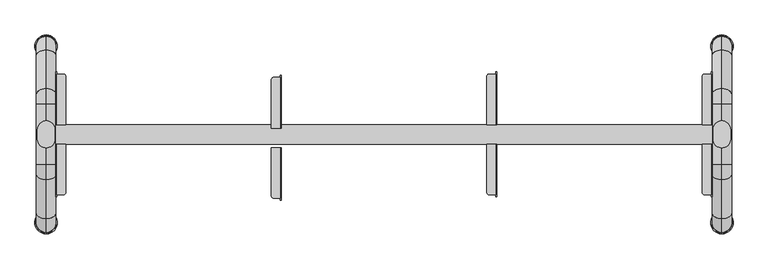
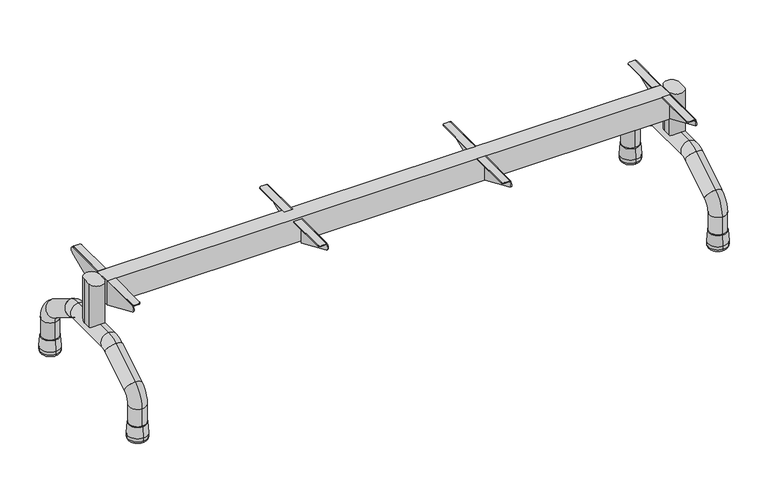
"""IFC4 building model written with IfcOpenShell, lengths in millimetres: furniture geometry, Banco para refeitório : Banco para refeitório 150x30cm cód 40470.2."""

from ifc_helpers import new_model, si_unit, point, frame, frame_2d, origin, place, context, project, spatial, polyline, circle_curve, ellipse_curve, trimmed, segment, composite_curve, outline, extrude, source, transform, mapped, element, save
from ifc_brep_helpers import plane_surface, cylinder_surface, revolved_surface, advanced_brep


def furniture_1859f8d8(model_context):
    return source(origin(), model_context, "Body", "SolidModel", [
        extrude(outline(composite_curve([segment(trimmed(circle_curve(frame_2d((-690.0, -9.5)), 18.0), [point((-672.0, -9.5))], [point((-708.0, -9.5))], False, "CARTESIAN"), True, "CONTINUOUS"), segment(polyline([(-708.0, -9.5), (-708.0, 9.5)]), True, "CONTINUOUS"), segment(trimmed(circle_curve(frame_2d((-690.0, 9.5)), 18.0), [point((-708.0, 9.5))], [point((-672.0, 9.5))], False, "CARTESIAN"), True, "CONTINUOUS"), segment(polyline([(-672.0, 9.5), (-672.0, -9.5)]), True, "CONTINUOUS")], self_intersect=False)), frame((0.0, 0.0, 175.0), z_axis=(0.0, 0.0, 1.0), x_axis=(1.0, 0.0, 0.0)), (0.0, 0.0, 1.0), 117.0),
        advanced_brep(
        [(-690.0, -160.0, 43.1183008), (-690.0, -200.0, 43.1183008), (-690.0, -160.0, 86.179057), (-690.0, -200.0, 86.179057), (-690.0, -171.6393713, 137.1589568), (-690.0, -150.5464571, 103.1723569), (-690.0, -71.882227, 151.9932999), (-690.0, -92.9751412, 185.9798998), (-690.0, -61.3357699, 195.0), (-690.0, -61.3357699, 155.0), (-690.0, 61.3357699, 155.0), (-690.0, 61.3357699, 195.0), (-690.0, 160.0, 43.1183008), (-690.0, 200.0, 43.1183008), (-690.0, 92.9751412, 185.9798998), (-690.0, 71.882227, 151.9932999), (-690.0, 150.5464571, 103.1723569), (-690.0, 171.6393713, 137.1589568), (-690.0, 200.0, 86.179057), (-690.0, 160.0, 86.179057)],
        [
            (0, 1, circle_curve(frame((-690.0, -180.0, 43.1183008), z_axis=(0.0, 0.0, -1.0), x_axis=(0.0, -1.0, 0.0)), 20.0)),
            (1, 0, circle_curve(frame((-690.0, -180.0, 43.1183008), z_axis=(0.0, 0.0, -1.0), x_axis=(0.0, -1.0, 0.0)), 20.0)),
            (0, 2),
            (2, 3, circle_curve(frame((-690.0, -180.0, 86.179057), z_axis=(0.0, 0.0, -1.0), x_axis=(0.0, -1.0, 0.0)), 20.0)),
            (3, 1),
            (3, 2, circle_curve(frame((-690.0, -180.0, 86.179057), z_axis=(0.0, 0.0, -1.0), x_axis=(0.0, -1.0, 0.0)), 20.0)),
            (4, 5, circle_curve(frame((-690.0, -161.0929142, 120.1656569), z_axis=(0.0, 0.8496649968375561, 0.5273228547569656), x_axis=(0.0, -0.5273228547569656, 0.8496649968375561)), 20.0)),
            (5, 6),
            (6, 7, circle_curve(frame((-690.0, -82.4286841, 168.9865999), z_axis=(0.0, -0.8496649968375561, -0.5273228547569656), x_axis=(0.0, -0.5273228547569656, 0.8496649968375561)), 20.0)),
            (7, 4),
            (5, 4, circle_curve(frame((-690.0, -161.0929142, 120.1656569), z_axis=(0.0, 0.8496649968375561, 0.5273228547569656), x_axis=(0.0, -0.5273228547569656, 0.8496649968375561)), 20.0)),
            (7, 6, circle_curve(frame((-690.0, -82.4286841, 168.9865999), z_axis=(0.0, -0.8496649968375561, -0.5273228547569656), x_axis=(0.0, -0.5273228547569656, 0.8496649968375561)), 20.0)),
            (8, 9, circle_curve(frame((-690.0, -61.3357699, 175.0), z_axis=(0.0, 1.0, 0.0), x_axis=(0.0, 0.0, 1.0)), 20.0)),
            (9, 10),
            (10, 11, circle_curve(frame((-690.0, 61.3357699, 175.0), z_axis=(0.0, -1.0, 0.0), x_axis=(0.0, 0.0, 1.0)), 20.0)),
            (11, 8),
            (9, 8, circle_curve(frame((-690.0, -61.3357699, 175.0), z_axis=(0.0, 1.0, 0.0), x_axis=(0.0, 0.0, 1.0)), 20.0)),
            (11, 10, circle_curve(frame((-690.0, 61.3357699, 175.0), z_axis=(0.0, -1.0, 0.0), x_axis=(0.0, 0.0, 1.0)), 20.0)),
            (12, 13, circle_curve(frame((-690.0, 180.0, 43.1183008), z_axis=(0.0, 0.0, -1.0), x_axis=(0.0, 1.0, 0.0)), 20.0)),
            (13, 12, circle_curve(frame((-690.0, 180.0, 43.1183008), z_axis=(0.0, 0.0, -1.0), x_axis=(0.0, 1.0, 0.0)), 20.0)),
            (4, 3, circle_curve(frame((-690.0, -140.0, 86.179057), z_axis=(1.0, 0.0, 0.0), x_axis=(0.0, -1.0, 0.0)), 60.0)),
            (2, 5, circle_curve(frame((-690.0, -140.0, 86.179057), z_axis=(-1.0, 0.0, 0.0), x_axis=(0.0, -1.0, 0.0)), 20.0)),
            (8, 7, circle_curve(frame((-690.0, -61.3357699, 135.0), z_axis=(1.0, 0.0, 0.0), x_axis=(0.0, -0.5273228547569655, 0.8496649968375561)), 60.0)),
            (6, 9, circle_curve(frame((-690.0, -61.3357699, 135.0), z_axis=(-1.0, 0.0, 0.0), x_axis=(0.0, -0.5273228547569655, 0.8496649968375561)), 20.0)),
            (14, 11, circle_curve(frame((-690.0, 61.3357699, 135.0), z_axis=(1.0, 0.0, 0.0), x_axis=(0.0, 0.0, 1.0)), 60.0)),
            (10, 15, circle_curve(frame((-690.0, 61.3357699, 135.0), z_axis=(-1.0, 0.0, 0.0), x_axis=(0.0, 0.0, 1.0)), 20.0)),
            (15, 14, circle_curve(frame((-690.0, 82.4286841, 168.9865999), z_axis=(0.0, -0.8496649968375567, 0.5273228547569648), x_axis=(0.0, 0.5273228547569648, 0.8496649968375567)), 20.0)),
            (14, 15, circle_curve(frame((-690.0, 82.4286841, 168.9865999), z_axis=(0.0, -0.8496649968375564, 0.5273228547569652), x_axis=(0.0, 0.5273228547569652, 0.8496649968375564)), 20.0)),
            (15, 16),
            (16, 17, circle_curve(frame((-690.0, 161.0929142, 120.1656569), z_axis=(0.0, -0.849664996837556, 0.5273228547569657), x_axis=(0.0, 0.5273228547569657, 0.849664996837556)), 20.0)),
            (17, 14),
            (17, 16, circle_curve(frame((-690.0, 161.0929142, 120.1656569), z_axis=(0.0, -0.849664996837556, 0.5273228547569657), x_axis=(0.0, 0.5273228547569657, 0.849664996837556)), 20.0)),
            (18, 17, circle_curve(frame((-690.0, 140.0, 86.179057), z_axis=(1.0, 0.0, 0.0), x_axis=(0.0, 0.5273228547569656, 0.849664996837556)), 60.0)),
            (16, 19, circle_curve(frame((-690.0, 140.0, 86.179057), z_axis=(-1.0, 0.0, 0.0), x_axis=(0.0, 0.5273228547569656, 0.849664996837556)), 20.0)),
            (19, 18, circle_curve(frame((-690.0, 180.0, 86.179057), z_axis=(0.0, 0.0, 1.0), x_axis=(0.0, 1.0, 0.0)), 20.0)),
            (18, 19, circle_curve(frame((-690.0, 180.0, 86.179057), z_axis=(0.0, 0.0, 1.0), x_axis=(0.0, 1.0, 0.0)), 20.0)),
            (19, 12),
            (13, 18),
        ],
        [
            plane_surface(frame((-1380.0, -180.0, 43.1183008), z_axis=(0.0, 0.0, -1.0), x_axis=(1.0, 0.0, 0.0))),
            cylinder_surface(frame((-690.0, -180.0, 43.1183008), z_axis=(0.0, 0.0, -1.0), x_axis=(0.0, -1.0, 0.0)), 20.0),
            cylinder_surface(frame((-690.0, -161.0929142, 120.1656569), z_axis=(0.0, -0.8496649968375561, -0.5273228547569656), x_axis=(0.0, -0.5273228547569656, 0.8496649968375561)), 20.0),
            cylinder_surface(frame((-690.0, -61.3357699, 175.0), z_axis=(0.0, -1.0, 0.0), x_axis=(0.0, 0.0, 1.0)), 20.0),
            plane_surface(frame((-1380.0, 180.0, 43.1183008), z_axis=(0.0, 0.0, -1.0), x_axis=(1.0, 0.0, 0.0))),
            revolved_surface(trimmed(ellipse_curve(frame((-690.0, -180.0, 86.179057), z_axis=(0.0, 0.0, -1.0), x_axis=(0.0, -1.0, 0.0)), 20.0, 20.0), [point((-690.0, -160.0, 86.179057))], [point((-690.0, -200.0, 86.179057))], True, "CARTESIAN"), (-1380.0, -140.0, 86.179057), (-1.0, 0.0, 0.0)),
            revolved_surface(trimmed(ellipse_curve(frame((-690.0, -180.0, 86.179057), z_axis=(0.0, 0.0, -1.0), x_axis=(0.0, -1.0, 0.0)), 20.0, 20.0), [point((-690.0, -200.0, 86.179057))], [point((-690.0, -160.0, 86.179057))], True, "CARTESIAN"), (-1380.0, -140.0, 86.179057), (-1.0, 0.0, 0.0)),
            revolved_surface(trimmed(ellipse_curve(frame((-690.0, -82.4286841, 168.9865999), z_axis=(0.0, -0.8496649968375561, -0.5273228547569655), x_axis=(0.0, -0.5273228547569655, 0.8496649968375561)), 20.0, 20.0), [point((-690.0, -71.882227, 151.9932999))], [point((-690.0, -92.9751412, 185.9798998))], True, "CARTESIAN"), (-1380.0, -61.3357699, 135.0), (-1.0, 0.0, 0.0)),
            revolved_surface(trimmed(ellipse_curve(frame((-690.0, -82.4286841, 168.9865999), z_axis=(0.0, -0.8496649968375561, -0.5273228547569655), x_axis=(0.0, -0.5273228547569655, 0.8496649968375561)), 20.0, 20.0), [point((-690.0, -92.9751412, 185.9798998))], [point((-690.0, -71.882227, 151.9932999))], True, "CARTESIAN"), (-1380.0, -61.3357699, 135.0), (-1.0, 0.0, 0.0)),
            revolved_surface(trimmed(ellipse_curve(frame((-690.0, 61.3357699, 175.0), z_axis=(0.0, -1.0, 0.0), x_axis=(0.0, 0.0, 1.0)), 20.0, 20.0), [point((-690.0, 61.3357699, 155.0))], [point((-690.0, 61.3357699, 195.0))], True, "CARTESIAN"), (-1380.0, 61.3357699, 135.0), (-1.0, 0.0, 0.0)),
            revolved_surface(trimmed(ellipse_curve(frame((-690.0, 61.3357699, 175.0), z_axis=(0.0, -1.0, 0.0), x_axis=(0.0, 0.0, 1.0)), 20.0, 20.0), [point((-690.0, 61.3357699, 195.0))], [point((-690.0, 61.3357699, 155.0))], True, "CARTESIAN"), (-1380.0, 61.3357699, 135.0), (-1.0, 0.0, 0.0)),
            cylinder_surface(frame((-690.0, 82.4286841, 168.9865999), z_axis=(0.0, -0.849664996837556, 0.5273228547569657), x_axis=(0.0, 0.5273228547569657, 0.849664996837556)), 20.0),
            revolved_surface(trimmed(ellipse_curve(frame((-690.0, 161.0929142, 120.1656569), z_axis=(0.0, -0.8496649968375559, 0.5273228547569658), x_axis=(0.0, 0.5273228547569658, 0.8496649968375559)), 20.0, 20.0), [point((-690.0, 150.5464571, 103.1723569))], [point((-690.0, 171.6393713, 137.1589568))], True, "CARTESIAN"), (-1380.0, 140.0, 86.179057), (-1.0, 0.0, 0.0)),
            revolved_surface(trimmed(ellipse_curve(frame((-690.0, 161.0929142, 120.1656569), z_axis=(0.0, -0.8496649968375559, 0.5273228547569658), x_axis=(0.0, 0.5273228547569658, 0.8496649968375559)), 20.0, 20.0), [point((-690.0, 171.6393713, 137.1589568))], [point((-690.0, 150.5464571, 103.1723569))], True, "CARTESIAN"), (-1380.0, 140.0, 86.179057), (-1.0, 0.0, 0.0)),
            cylinder_surface(frame((-690.0, 180.0, 86.179057), z_axis=(0.0, 0.0, 1.0), x_axis=(0.0, 1.0, 0.0)), 20.0),
        ],
        [
            (0, [[1, 2]]),
            (1, [[-1, 3, 4, 5]]),
            (1, [[-2, -5, 6, -3]]),
            (2, [[7, 8, 9, 10]]),
            (2, [[11, -10, 12, -8]]),
            (3, [[13, 14, 15, 16]]),
            (3, [[17, -16, 18, -14]]),
            (4, [[19, 20]]),
            (5, [[21, -4, 22, -7]]),
            (6, [[-22, -6, -21, -11]]),
            (7, [[23, -9, 24, -13]]),
            (8, [[-24, -12, -23, -17]]),
            (9, [[25, -15, 26, 27]]),
            (10, [[-26, -18, -25, 28]]),
            (11, [[-27, 29, 30, 31]]),
            (11, [[-28, -31, 32, -29]]),
            (12, [[33, -30, 34, 35]]),
            (13, [[-34, -32, -33, 36]]),
            (14, [[-35, 37, -20, 38]]),
            (14, [[-36, -38, -19, -37]]),
        ],
    ),
        extrude(outline(composite_curve([segment(trimmed(circle_curve(frame_2d((690.0, -9.5)), 18.0), [point((708.0, -9.5))], [point((672.0, -9.5))], False, "CARTESIAN"), True, "CONTINUOUS"), segment(polyline([(672.0, -9.5), (672.0, 9.5)]), True, "CONTINUOUS"), segment(trimmed(circle_curve(frame_2d((690.0, 9.5)), 18.0), [point((672.0, 9.5))], [point((708.0, 9.5))], False, "CARTESIAN"), True, "CONTINUOUS"), segment(polyline([(708.0, 9.5), (708.0, -9.5)]), True, "CONTINUOUS")], self_intersect=False)), frame((0.0, 0.0, 175.0), z_axis=(0.0, 0.0, 1.0), x_axis=(1.0, 0.0, 0.0)), (0.0, 0.0, 1.0), 117.0),
        advanced_brep(
        [(690.0, -160.0, 43.1183008), (690.0, -200.0, 43.1183008), (690.0, -160.0, 86.179057), (690.0, -200.0, 86.179057), (690.0, -171.6393713, 137.1589568), (690.0, -150.5464571, 103.1723569), (690.0, -71.882227, 151.9932999), (690.0, -92.9751412, 185.9798998), (690.0, -61.3357699, 195.0), (690.0, -61.3357699, 155.0), (690.0, 61.3357699, 155.0), (690.0, 61.3357699, 195.0), (690.0, 160.0, 43.1183008), (690.0, 200.0, 43.1183008), (690.0, 92.9751412, 185.9798998), (690.0, 71.882227, 151.9932999), (690.0, 150.5464571, 103.1723569), (690.0, 171.6393713, 137.1589568), (690.0, 200.0, 86.179057), (690.0, 160.0, 86.179057)],
        [
            (0, 1, circle_curve(frame((690.0, -180.0, 43.1183008), z_axis=(0.0, 0.0, -1.0), x_axis=(0.0, -1.0, 0.0)), 20.0)),
            (1, 0, circle_curve(frame((690.0, -180.0, 43.1183008), z_axis=(0.0, 0.0, -1.0), x_axis=(0.0, -1.0, 0.0)), 20.0)),
            (0, 2),
            (2, 3, circle_curve(frame((690.0, -180.0, 86.179057), z_axis=(0.0, 0.0, -1.0), x_axis=(0.0, -1.0, 0.0)), 20.0)),
            (3, 1),
            (3, 2, circle_curve(frame((690.0, -180.0, 86.179057), z_axis=(0.0, 0.0, -1.0), x_axis=(0.0, -1.0, 0.0)), 20.0)),
            (4, 5, circle_curve(frame((690.0, -161.0929142, 120.1656569), z_axis=(0.0, 0.8496649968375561, 0.5273228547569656), x_axis=(0.0, -0.5273228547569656, 0.8496649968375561)), 20.0)),
            (5, 6),
            (6, 7, circle_curve(frame((690.0, -82.4286841, 168.9865999), z_axis=(0.0, -0.8496649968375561, -0.5273228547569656), x_axis=(0.0, -0.5273228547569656, 0.8496649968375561)), 20.0)),
            (7, 4),
            (5, 4, circle_curve(frame((690.0, -161.0929142, 120.1656569), z_axis=(0.0, 0.8496649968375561, 0.5273228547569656), x_axis=(0.0, -0.5273228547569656, 0.8496649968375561)), 20.0)),
            (7, 6, circle_curve(frame((690.0, -82.4286841, 168.9865999), z_axis=(0.0, -0.8496649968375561, -0.5273228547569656), x_axis=(0.0, -0.5273228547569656, 0.8496649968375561)), 20.0)),
            (8, 9, circle_curve(frame((690.0, -61.3357699, 175.0), z_axis=(0.0, 1.0, 0.0), x_axis=(0.0, 0.0, 1.0)), 20.0)),
            (9, 10),
            (10, 11, circle_curve(frame((690.0, 61.3357699, 175.0), z_axis=(0.0, -1.0, 0.0), x_axis=(0.0, 0.0, 1.0)), 20.0)),
            (11, 8),
            (9, 8, circle_curve(frame((690.0, -61.3357699, 175.0), z_axis=(0.0, 1.0, 0.0), x_axis=(0.0, 0.0, 1.0)), 20.0)),
            (11, 10, circle_curve(frame((690.0, 61.3357699, 175.0), z_axis=(0.0, -1.0, 0.0), x_axis=(0.0, 0.0, 1.0)), 20.0)),
            (12, 13, circle_curve(frame((690.0, 180.0, 43.1183008), z_axis=(0.0, 0.0, -1.0), x_axis=(0.0, 1.0, 0.0)), 20.0)),
            (13, 12, circle_curve(frame((690.0, 180.0, 43.1183008), z_axis=(0.0, 0.0, -1.0), x_axis=(0.0, 1.0, 0.0)), 20.0)),
            (4, 3, circle_curve(frame((690.0, -140.0, 86.179057), z_axis=(1.0, 0.0, 0.0), x_axis=(0.0, -1.0, 0.0)), 60.0)),
            (2, 5, circle_curve(frame((690.0, -140.0, 86.179057), z_axis=(-1.0, 0.0, 0.0), x_axis=(0.0, -1.0, 0.0)), 20.0)),
            (8, 7, circle_curve(frame((690.0, -61.3357699, 135.0), z_axis=(1.0, 0.0, 0.0), x_axis=(0.0, -0.5273228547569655, 0.8496649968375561)), 60.0)),
            (6, 9, circle_curve(frame((690.0, -61.3357699, 135.0), z_axis=(-1.0, 0.0, 0.0), x_axis=(0.0, -0.5273228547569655, 0.8496649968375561)), 20.0)),
            (14, 11, circle_curve(frame((690.0, 61.3357699, 135.0), z_axis=(1.0, 0.0, 0.0), x_axis=(0.0, 0.0, 1.0)), 60.0)),
            (10, 15, circle_curve(frame((690.0, 61.3357699, 135.0), z_axis=(-1.0, 0.0, 0.0), x_axis=(0.0, 0.0, 1.0)), 20.0)),
            (15, 14, circle_curve(frame((690.0, 82.4286841, 168.9865999), z_axis=(0.0, -0.8496649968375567, 0.5273228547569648), x_axis=(0.0, 0.5273228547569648, 0.8496649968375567)), 20.0)),
            (14, 15, circle_curve(frame((690.0, 82.4286841, 168.9865999), z_axis=(0.0, -0.8496649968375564, 0.5273228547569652), x_axis=(0.0, 0.5273228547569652, 0.8496649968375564)), 20.0)),
            (15, 16),
            (16, 17, circle_curve(frame((690.0, 161.0929142, 120.1656569), z_axis=(0.0, -0.849664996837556, 0.5273228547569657), x_axis=(0.0, 0.5273228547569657, 0.849664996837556)), 20.0)),
            (17, 14),
            (17, 16, circle_curve(frame((690.0, 161.0929142, 120.1656569), z_axis=(0.0, -0.849664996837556, 0.5273228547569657), x_axis=(0.0, 0.5273228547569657, 0.849664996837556)), 20.0)),
            (18, 17, circle_curve(frame((690.0, 140.0, 86.179057), z_axis=(1.0, 0.0, 0.0), x_axis=(0.0, 0.5273228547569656, 0.849664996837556)), 60.0)),
            (16, 19, circle_curve(frame((690.0, 140.0, 86.179057), z_axis=(-1.0, 0.0, 0.0), x_axis=(0.0, 0.5273228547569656, 0.849664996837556)), 20.0)),
            (19, 18, circle_curve(frame((690.0, 180.0, 86.179057), z_axis=(0.0, 0.0, 1.0), x_axis=(0.0, 1.0, 0.0)), 20.0)),
            (18, 19, circle_curve(frame((690.0, 180.0, 86.179057), z_axis=(0.0, 0.0, 1.0), x_axis=(0.0, 1.0, 0.0)), 20.0)),
            (19, 12),
            (13, 18),
        ],
        [
            plane_surface(frame((0.0, -180.0, 43.1183008), z_axis=(0.0, 0.0, -1.0), x_axis=(1.0, 0.0, 0.0))),
            cylinder_surface(frame((690.0, -180.0, 43.1183008), z_axis=(0.0, 0.0, -1.0), x_axis=(0.0, -1.0, 0.0)), 20.0),
            cylinder_surface(frame((690.0, -161.0929142, 120.1656569), z_axis=(0.0, -0.8496649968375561, -0.5273228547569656), x_axis=(0.0, -0.5273228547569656, 0.8496649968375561)), 20.0),
            cylinder_surface(frame((690.0, -61.3357699, 175.0), z_axis=(0.0, -1.0, 0.0), x_axis=(0.0, 0.0, 1.0)), 20.0),
            plane_surface(frame((0.0, 180.0, 43.1183008), z_axis=(0.0, 0.0, -1.0), x_axis=(1.0, 0.0, 0.0))),
            revolved_surface(trimmed(ellipse_curve(frame((690.0, -180.0, 86.179057), z_axis=(0.0, 0.0, -1.0), x_axis=(0.0, -1.0, 0.0)), 20.0, 20.0), [point((690.0, -160.0, 86.179057))], [point((690.0, -200.0, 86.179057))], True, "CARTESIAN"), (0.0, -140.0, 86.179057), (-1.0, 0.0, 0.0)),
            revolved_surface(trimmed(ellipse_curve(frame((690.0, -180.0, 86.179057), z_axis=(0.0, 0.0, -1.0), x_axis=(0.0, -1.0, 0.0)), 20.0, 20.0), [point((690.0, -200.0, 86.179057))], [point((690.0, -160.0, 86.179057))], True, "CARTESIAN"), (0.0, -140.0, 86.179057), (-1.0, 0.0, 0.0)),
            revolved_surface(trimmed(ellipse_curve(frame((690.0, -82.4286841, 168.9865999), z_axis=(0.0, -0.8496649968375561, -0.5273228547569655), x_axis=(0.0, -0.5273228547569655, 0.8496649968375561)), 20.0, 20.0), [point((690.0, -71.882227, 151.9932999))], [point((690.0, -92.9751412, 185.9798998))], True, "CARTESIAN"), (0.0, -61.3357699, 135.0), (-1.0, 0.0, 0.0)),
            revolved_surface(trimmed(ellipse_curve(frame((690.0, -82.4286841, 168.9865999), z_axis=(0.0, -0.8496649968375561, -0.5273228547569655), x_axis=(0.0, -0.5273228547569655, 0.8496649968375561)), 20.0, 20.0), [point((690.0, -92.9751412, 185.9798998))], [point((690.0, -71.882227, 151.9932999))], True, "CARTESIAN"), (0.0, -61.3357699, 135.0), (-1.0, 0.0, 0.0)),
            revolved_surface(trimmed(ellipse_curve(frame((690.0, 61.3357699, 175.0), z_axis=(0.0, -1.0, 0.0), x_axis=(0.0, 0.0, 1.0)), 20.0, 20.0), [point((690.0, 61.3357699, 155.0))], [point((690.0, 61.3357699, 195.0))], True, "CARTESIAN"), (0.0, 61.3357699, 135.0), (-1.0, 0.0, 0.0)),
            revolved_surface(trimmed(ellipse_curve(frame((690.0, 61.3357699, 175.0), z_axis=(0.0, -1.0, 0.0), x_axis=(0.0, 0.0, 1.0)), 20.0, 20.0), [point((690.0, 61.3357699, 195.0))], [point((690.0, 61.3357699, 155.0))], True, "CARTESIAN"), (0.0, 61.3357699, 135.0), (-1.0, 0.0, 0.0)),
            cylinder_surface(frame((690.0, 82.4286841, 168.9865999), z_axis=(0.0, -0.849664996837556, 0.5273228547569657), x_axis=(0.0, 0.5273228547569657, 0.849664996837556)), 20.0),
            revolved_surface(trimmed(ellipse_curve(frame((690.0, 161.0929142, 120.1656569), z_axis=(0.0, -0.8496649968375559, 0.5273228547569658), x_axis=(0.0, 0.5273228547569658, 0.8496649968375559)), 20.0, 20.0), [point((690.0, 150.5464571, 103.1723569))], [point((690.0, 171.6393713, 137.1589568))], True, "CARTESIAN"), (0.0, 140.0, 86.179057), (-1.0, 0.0, 0.0)),
            revolved_surface(trimmed(ellipse_curve(frame((690.0, 161.0929142, 120.1656569), z_axis=(0.0, -0.8496649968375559, 0.5273228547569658), x_axis=(0.0, 0.5273228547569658, 0.8496649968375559)), 20.0, 20.0), [point((690.0, 171.6393713, 137.1589568))], [point((690.0, 150.5464571, 103.1723569))], True, "CARTESIAN"), (0.0, 140.0, 86.179057), (-1.0, 0.0, 0.0)),
            cylinder_surface(frame((690.0, 180.0, 86.179057), z_axis=(0.0, 0.0, 1.0), x_axis=(0.0, 1.0, 0.0)), 20.0),
        ],
        [
            (0, [[1, 2]]),
            (1, [[-1, 3, 4, 5]]),
            (1, [[-2, -5, 6, -3]]),
            (2, [[7, 8, 9, 10]]),
            (2, [[11, -10, 12, -8]]),
            (3, [[13, 14, 15, 16]]),
            (3, [[17, -16, 18, -14]]),
            (4, [[19, 20]]),
            (5, [[21, -4, 22, -7]]),
            (6, [[-22, -6, -21, -11]]),
            (7, [[23, -9, 24, -13]]),
            (8, [[-24, -12, -23, -17]]),
            (9, [[25, -15, 26, 27]]),
            (10, [[-26, -18, -25, 28]]),
            (11, [[-27, 29, 30, 31]]),
            (11, [[-28, -31, 32, -29]]),
            (12, [[33, -30, 34, 35]]),
            (13, [[-34, -32, -33, 36]]),
            (14, [[-35, 37, -20, 38]]),
            (14, [[-36, -38, -19, -37]]),
        ],
    ),
        advanced_brep(
        [(-690.0, 200.5839249, 42.9792915), (-690.0, 201.212521, 42.3931162), (-690.0, 158.787479, 42.3931162), (-690.0, 159.4160751, 42.9792915), (-690.0, 203.125, 15.0433923), (-690.0, 156.875, 15.0433923), (-690.0, 203.125, 7.2213749), (-690.0, 156.875, 7.2213749), (-690.0, 196.0093092, 0.1056841), (-690.0, 163.9906908, 0.1056841), (-690.0, 180.0, 0.1056841), (-690.0, 180.0, 42.9792915)],
        [
            (0, 1, circle_curve(frame((-690.0, 200.5839249, 42.3491605), z_axis=(-1.0, 0.0, 0.0), x_axis=(0.0, -1.0, 0.0)), 0.630131)),
            (1, 2, circle_curve(frame((-690.0, 180.0, 42.3931162), z_axis=(0.0, 0.0, 1.0), x_axis=(0.0, -1.0, 0.0)), 21.212521)),
            (2, 3, circle_curve(frame((-690.0, 159.4160751, 42.3491605), z_axis=(-1.0, 0.0, 0.0), x_axis=(0.0, 1.0, 0.0)), 0.630131)),
            (3, 0, circle_curve(frame((-690.0, 180.0, 42.9792915), z_axis=(0.0, 0.0, -1.0), x_axis=(0.0, -1.0, 0.0)), 20.5839249)),
            (2, 1, circle_curve(frame((-690.0, 180.0, 42.3931162), z_axis=(0.0, 0.0, 1.0), x_axis=(0.0, -1.0, 0.0)), 21.212521)),
            (0, 3, circle_curve(frame((-690.0, 180.0, 42.9792915), z_axis=(0.0, 0.0, -1.0), x_axis=(0.0, -1.0, 0.0)), 20.5839249)),
            (1, 4),
            (4, 5, circle_curve(frame((-690.0, 180.0, 15.0433923), z_axis=(0.0, 0.0, 1.0), x_axis=(0.0, -1.0, 0.0)), 23.125)),
            (5, 2),
            (5, 4, circle_curve(frame((-690.0, 180.0, 15.0433923), z_axis=(0.0, 0.0, 1.0), x_axis=(0.0, -1.0, 0.0)), 23.125)),
            (4, 6),
            (6, 7, circle_curve(frame((-690.0, 180.0, 7.2213749), z_axis=(0.0, 0.0, 1.0), x_axis=(0.0, -1.0, 0.0)), 23.125)),
            (7, 5),
            (7, 6, circle_curve(frame((-690.0, 180.0, 7.2213749), z_axis=(0.0, 0.0, 1.0), x_axis=(0.0, -1.0, 0.0)), 23.125)),
            (6, 8, circle_curve(frame((-690.0, 196.0093092, 7.2213749), z_axis=(-1.0, 0.0, 0.0), x_axis=(0.0, -1.0, 0.0)), 7.1156908)),
            (8, 9, circle_curve(frame((-690.0, 180.0, 0.1056841), z_axis=(0.0, 0.0, 1.0), x_axis=(0.0, -1.0, 0.0)), 16.0093092)),
            (9, 7, circle_curve(frame((-690.0, 163.9906908, 7.2213749), z_axis=(-1.0, 0.0, 0.0), x_axis=(0.0, 1.0, 0.0)), 7.1156908)),
            (9, 8, circle_curve(frame((-690.0, 180.0, 0.1056841), z_axis=(0.0, 0.0, 1.0), x_axis=(0.0, -1.0, 0.0)), 16.0093092)),
            (8, 10),
            (10, 9),
            (11, 0),
            (3, 11),
        ],
        [
            revolved_surface(trimmed(ellipse_curve(frame((-690.0, 159.4160751, 42.3491605), z_axis=(-1.0, 0.0, 0.0), x_axis=(0.0, 1.0, 0.0)), 0.630131, 0.630131), [point((-690.0, 158.787479, 42.3931162))], [point((-690.0, 159.4160751, 42.9792915))], True, "CARTESIAN"), (-690.0, 180.0, 0.1056841), (0.0, 0.0, 1.0)),
            revolved_surface(polyline([(-690.0, 156.875, 15.0433923), (-690.0, 158.787479, 42.3931162)]), (-690.0, 180.0, 0.1056841), (0.0, 0.0, 1.0)),
            cylinder_surface(frame((-690.0, 180.0, 0.1056841), z_axis=(0.0, 0.0, 1.0), x_axis=(0.0, -1.0, 0.0)), 23.125),
            revolved_surface(trimmed(ellipse_curve(frame((-690.0, 163.9906908, 7.2213749), z_axis=(-1.0, 0.0, 0.0), x_axis=(0.0, 1.0, 0.0)), 7.1156908, 7.1156908), [point((-690.0, 163.9906908, 0.1056841))], [point((-690.0, 156.875, 7.2213749))], True, "CARTESIAN"), (-690.0, 180.0, 0.1056841), (0.0, 0.0, 1.0)),
            plane_surface(frame((-690.0, 180.0, 0.1056841), z_axis=(0.0, 0.0, -1.0), x_axis=(0.0, -1.0, 0.0))),
            plane_surface(frame((-690.0, 180.0, 42.9792915), z_axis=(0.0, 0.0, 1.0), x_axis=(0.0, -1.0, 0.0))),
        ],
        [
            (0, [[1, 2, 3, 4]]),
            (0, [[-3, 5, -1, 6]]),
            (1, [[7, 8, 9, -2]]),
            (1, [[-9, 10, -7, -5]]),
            (2, [[11, 12, 13, -8]]),
            (2, [[-13, 14, -11, -10]]),
            (3, [[15, 16, 17, -12]]),
            (3, [[-17, 18, -15, -14]]),
            (4, [[19, 20, -16]]),
            (4, [[-20, -19, -18]]),
            (5, [[21, -4, 22]]),
            (5, [[-22, -6, -21]]),
        ],
    ),
        advanced_brep(
        [(-690.0, -159.4160751, 42.9792915), (-690.0, -158.787479, 42.3931162), (-690.0, -201.212521, 42.3931162), (-690.0, -200.5839249, 42.9792915), (-690.0, -156.875, 15.0433923), (-690.0, -203.125, 15.0433923), (-690.0, -156.875, 7.2213749), (-690.0, -203.125, 7.2213749), (-690.0, -163.9906908, 0.1056841), (-690.0, -196.0093092, 0.1056841), (-690.0, -180.0, 0.1056841), (-690.0, -180.0, 42.9792915)],
        [
            (0, 1, circle_curve(frame((-690.0, -159.4160751, 42.3491605), z_axis=(-1.0, 0.0, 0.0), x_axis=(0.0, -1.0, 0.0)), 0.630131)),
            (1, 2, circle_curve(frame((-690.0, -180.0, 42.3931162), z_axis=(0.0, 0.0, 1.0), x_axis=(0.0, -1.0, 0.0)), 21.212521)),
            (2, 3, circle_curve(frame((-690.0, -200.5839249, 42.3491605), z_axis=(-1.0, 0.0, 0.0), x_axis=(0.0, 1.0, 0.0)), 0.630131)),
            (3, 0, circle_curve(frame((-690.0, -180.0, 42.9792915), z_axis=(0.0, 0.0, -1.0), x_axis=(0.0, -1.0, 0.0)), 20.5839249)),
            (2, 1, circle_curve(frame((-690.0, -180.0, 42.3931162), z_axis=(0.0, 0.0, 1.0), x_axis=(0.0, -1.0, 0.0)), 21.212521)),
            (0, 3, circle_curve(frame((-690.0, -180.0, 42.9792915), z_axis=(0.0, 0.0, -1.0), x_axis=(0.0, -1.0, 0.0)), 20.5839249)),
            (1, 4),
            (4, 5, circle_curve(frame((-690.0, -180.0, 15.0433923), z_axis=(0.0, 0.0, 1.0), x_axis=(0.0, -1.0, 0.0)), 23.125)),
            (5, 2),
            (5, 4, circle_curve(frame((-690.0, -180.0, 15.0433923), z_axis=(0.0, 0.0, 1.0), x_axis=(0.0, -1.0, 0.0)), 23.125)),
            (4, 6),
            (6, 7, circle_curve(frame((-690.0, -180.0, 7.2213749), z_axis=(0.0, 0.0, 1.0), x_axis=(0.0, -1.0, 0.0)), 23.125)),
            (7, 5),
            (7, 6, circle_curve(frame((-690.0, -180.0, 7.2213749), z_axis=(0.0, 0.0, 1.0), x_axis=(0.0, -1.0, 0.0)), 23.125)),
            (6, 8, circle_curve(frame((-690.0, -163.9906908, 7.2213749), z_axis=(-1.0, 0.0, 0.0), x_axis=(0.0, -1.0, 0.0)), 7.1156908)),
            (8, 9, circle_curve(frame((-690.0, -180.0, 0.1056841), z_axis=(0.0, 0.0, 1.0), x_axis=(0.0, -1.0, 0.0)), 16.0093092)),
            (9, 7, circle_curve(frame((-690.0, -196.0093092, 7.2213749), z_axis=(-1.0, 0.0, 0.0), x_axis=(0.0, 1.0, 0.0)), 7.1156908)),
            (9, 8, circle_curve(frame((-690.0, -180.0, 0.1056841), z_axis=(0.0, 0.0, 1.0), x_axis=(0.0, -1.0, 0.0)), 16.0093092)),
            (8, 10),
            (10, 9),
            (11, 0),
            (3, 11),
        ],
        [
            revolved_surface(trimmed(ellipse_curve(frame((-690.0, -200.5839249, 42.3491605), z_axis=(-1.0, 0.0, 0.0), x_axis=(0.0, 1.0, 0.0)), 0.630131, 0.630131), [point((-690.0, -201.212521, 42.3931162))], [point((-690.0, -200.5839249, 42.9792915))], True, "CARTESIAN"), (-690.0, -180.0, 0.1056841), (0.0, 0.0, 1.0)),
            revolved_surface(polyline([(-690.0, -203.125, 15.0433923), (-690.0, -201.212521, 42.3931162)]), (-690.0, -180.0, 0.1056841), (0.0, 0.0, 1.0)),
            cylinder_surface(frame((-690.0, -180.0, 0.1056841), z_axis=(0.0, 0.0, 1.0), x_axis=(0.0, -1.0, 0.0)), 23.125),
            revolved_surface(trimmed(ellipse_curve(frame((-690.0, -196.0093092, 7.2213749), z_axis=(-1.0, 0.0, 0.0), x_axis=(0.0, 1.0, 0.0)), 7.1156908, 7.1156908), [point((-690.0, -196.0093092, 0.1056841))], [point((-690.0, -203.125, 7.2213749))], True, "CARTESIAN"), (-690.0, -180.0, 0.1056841), (0.0, 0.0, 1.0)),
            plane_surface(frame((-690.0, -180.0, 0.1056841), z_axis=(0.0, 0.0, -1.0), x_axis=(0.0, -1.0, 0.0))),
            plane_surface(frame((-690.0, -180.0, 42.9792915), z_axis=(0.0, 0.0, 1.0), x_axis=(0.0, -1.0, 0.0))),
        ],
        [
            (0, [[1, 2, 3, 4]]),
            (0, [[-3, 5, -1, 6]]),
            (1, [[7, 8, 9, -2]]),
            (1, [[-9, 10, -7, -5]]),
            (2, [[11, 12, 13, -8]]),
            (2, [[-13, 14, -11, -10]]),
            (3, [[15, 16, 17, -12]]),
            (3, [[-17, 18, -15, -14]]),
            (4, [[19, 20, -16]]),
            (4, [[-20, -19, -18]]),
            (5, [[21, -4, 22]]),
            (5, [[-22, -6, -21]]),
        ],
    ),
        advanced_brep(
        [(690.0, 200.5839249, 42.9792915), (690.0, 159.4160751, 42.9792915), (690.0, 158.787479, 42.3931162), (690.0, 201.212521, 42.3931162), (690.0, 156.875, 15.0433923), (690.0, 203.125, 15.0433923), (690.0, 156.875, 7.2213749), (690.0, 203.125, 7.2213749), (690.0, 163.9906908, 0.1056841), (690.0, 196.0093092, 0.1056841), (690.0, 180.0, 0.1056841), (690.0, 180.0, 42.9792915)],
        [
            (0, 1, circle_curve(frame((690.0, 180.0, 42.9792915), z_axis=(0.0, 0.0, -1.0), x_axis=(0.0, -1.0, 0.0)), 20.5839249)),
            (1, 2, circle_curve(frame((690.0, 159.4160751, 42.3491605), z_axis=(1.0, 0.0, 0.0), x_axis=(0.0, 1.0, 0.0)), 0.630131)),
            (2, 3, circle_curve(frame((690.0, 180.0, 42.3931162), z_axis=(0.0, 0.0, 1.0), x_axis=(0.0, -1.0, 0.0)), 21.212521)),
            (3, 0, circle_curve(frame((690.0, 200.5839249, 42.3491605), z_axis=(1.0, 0.0, 0.0), x_axis=(0.0, -1.0, 0.0)), 0.630131)),
            (1, 0, circle_curve(frame((690.0, 180.0, 42.9792915), z_axis=(0.0, 0.0, -1.0), x_axis=(0.0, -1.0, 0.0)), 20.5839249)),
            (3, 2, circle_curve(frame((690.0, 180.0, 42.3931162), z_axis=(0.0, 0.0, 1.0), x_axis=(0.0, -1.0, 0.0)), 21.212521)),
            (2, 4),
            (4, 5, circle_curve(frame((690.0, 180.0, 15.0433923), z_axis=(0.0, 0.0, 1.0), x_axis=(0.0, -1.0, 0.0)), 23.125)),
            (5, 3),
            (5, 4, circle_curve(frame((690.0, 180.0, 15.0433923), z_axis=(0.0, 0.0, 1.0), x_axis=(0.0, -1.0, 0.0)), 23.125)),
            (4, 6),
            (6, 7, circle_curve(frame((690.0, 180.0, 7.2213749), z_axis=(0.0, 0.0, 1.0), x_axis=(0.0, -1.0, 0.0)), 23.125)),
            (7, 5),
            (7, 6, circle_curve(frame((690.0, 180.0, 7.2213749), z_axis=(0.0, 0.0, 1.0), x_axis=(0.0, -1.0, 0.0)), 23.125)),
            (6, 8, circle_curve(frame((690.0, 163.9906908, 7.2213749), z_axis=(1.0, 0.0, 0.0), x_axis=(0.0, 1.0, 0.0)), 7.1156908)),
            (8, 9, circle_curve(frame((690.0, 180.0, 0.1056841), z_axis=(0.0, 0.0, 1.0), x_axis=(0.0, -1.0, 0.0)), 16.0093092)),
            (9, 7, circle_curve(frame((690.0, 196.0093092, 7.2213749), z_axis=(1.0, 0.0, 0.0), x_axis=(0.0, -1.0, 0.0)), 7.1156908)),
            (9, 8, circle_curve(frame((690.0, 180.0, 0.1056841), z_axis=(0.0, 0.0, 1.0), x_axis=(0.0, -1.0, 0.0)), 16.0093092)),
            (8, 10),
            (10, 9),
            (11, 1),
            (0, 11),
        ],
        [
            revolved_surface(trimmed(ellipse_curve(frame((690.0, 159.4160751, 42.3491605), z_axis=(-1.0, 0.0, 0.0), x_axis=(0.0, 1.0, 0.0)), 0.630131, 0.630131), [point((690.0, 158.787479, 42.3931162))], [point((690.0, 159.4160751, 42.9792915))], True, "CARTESIAN"), (690.0, 180.0, 0.1056841), (0.0, 0.0, 1.0)),
            revolved_surface(polyline([(690.0, 156.875, 15.0433923), (690.0, 158.787479, 42.3931162)]), (690.0, 180.0, 0.1056841), (0.0, 0.0, 1.0)),
            cylinder_surface(frame((690.0, 180.0, 0.1056841), z_axis=(0.0, 0.0, 1.0), x_axis=(0.0, -1.0, 0.0)), 23.125),
            revolved_surface(trimmed(ellipse_curve(frame((690.0, 163.9906908, 7.2213749), z_axis=(-1.0, 0.0, 0.0), x_axis=(0.0, 1.0, 0.0)), 7.1156908, 7.1156908), [point((690.0, 163.9906908, 0.1056841))], [point((690.0, 156.875, 7.2213749))], True, "CARTESIAN"), (690.0, 180.0, 0.1056841), (0.0, 0.0, 1.0)),
            plane_surface(frame((690.0, 180.0, 0.1056841), z_axis=(0.0, 0.0, -1.0), x_axis=(0.0, -1.0, 0.0))),
            plane_surface(frame((690.0, 180.0, 42.9792915), z_axis=(0.0, 0.0, 1.0), x_axis=(0.0, -1.0, 0.0))),
        ],
        [
            (0, [[1, 2, 3, 4]]),
            (0, [[5, -4, 6, -2]]),
            (1, [[-3, 7, 8, 9]]),
            (1, [[-6, -9, 10, -7]]),
            (2, [[-8, 11, 12, 13]]),
            (2, [[-10, -13, 14, -11]]),
            (3, [[-12, 15, 16, 17]]),
            (3, [[-14, -17, 18, -15]]),
            (4, [[-16, 19, 20]]),
            (4, [[-18, -20, -19]]),
            (5, [[21, -1, 22]]),
            (5, [[-22, -5, -21]]),
        ],
    ),
        advanced_brep(
        [(690.0, -159.4160751, 42.9792915), (690.0, -200.5839249, 42.9792915), (690.0, -201.212521, 42.3931162), (690.0, -158.787479, 42.3931162), (690.0, -203.125, 15.0433923), (690.0, -156.875, 15.0433923), (690.0, -203.125, 7.2213749), (690.0, -156.875, 7.2213749), (690.0, -196.0093092, 0.1056841), (690.0, -163.9906908, 0.1056841), (690.0, -180.0, 0.1056841), (690.0, -180.0, 42.9792915)],
        [
            (0, 1, circle_curve(frame((690.0, -180.0, 42.9792915), z_axis=(0.0, 0.0, -1.0), x_axis=(0.0, -1.0, 0.0)), 20.5839249)),
            (1, 2, circle_curve(frame((690.0, -200.5839249, 42.3491605), z_axis=(1.0, 0.0, 0.0), x_axis=(0.0, 1.0, 0.0)), 0.630131)),
            (2, 3, circle_curve(frame((690.0, -180.0, 42.3931162), z_axis=(0.0, 0.0, 1.0), x_axis=(0.0, -1.0, 0.0)), 21.212521)),
            (3, 0, circle_curve(frame((690.0, -159.4160751, 42.3491605), z_axis=(1.0, 0.0, 0.0), x_axis=(0.0, -1.0, 0.0)), 0.630131)),
            (1, 0, circle_curve(frame((690.0, -180.0, 42.9792915), z_axis=(0.0, 0.0, -1.0), x_axis=(0.0, -1.0, 0.0)), 20.5839249)),
            (3, 2, circle_curve(frame((690.0, -180.0, 42.3931162), z_axis=(0.0, 0.0, 1.0), x_axis=(0.0, -1.0, 0.0)), 21.212521)),
            (2, 4),
            (4, 5, circle_curve(frame((690.0, -180.0, 15.0433923), z_axis=(0.0, 0.0, 1.0), x_axis=(0.0, -1.0, 0.0)), 23.125)),
            (5, 3),
            (5, 4, circle_curve(frame((690.0, -180.0, 15.0433923), z_axis=(0.0, 0.0, 1.0), x_axis=(0.0, -1.0, 0.0)), 23.125)),
            (4, 6),
            (6, 7, circle_curve(frame((690.0, -180.0, 7.2213749), z_axis=(0.0, 0.0, 1.0), x_axis=(0.0, -1.0, 0.0)), 23.125)),
            (7, 5),
            (7, 6, circle_curve(frame((690.0, -180.0, 7.2213749), z_axis=(0.0, 0.0, 1.0), x_axis=(0.0, -1.0, 0.0)), 23.125)),
            (6, 8, circle_curve(frame((690.0, -196.0093092, 7.2213749), z_axis=(1.0, 0.0, 0.0), x_axis=(0.0, 1.0, 0.0)), 7.1156908)),
            (8, 9, circle_curve(frame((690.0, -180.0, 0.1056841), z_axis=(0.0, 0.0, 1.0), x_axis=(0.0, -1.0, 0.0)), 16.0093092)),
            (9, 7, circle_curve(frame((690.0, -163.9906908, 7.2213749), z_axis=(1.0, 0.0, 0.0), x_axis=(0.0, -1.0, 0.0)), 7.1156908)),
            (9, 8, circle_curve(frame((690.0, -180.0, 0.1056841), z_axis=(0.0, 0.0, 1.0), x_axis=(0.0, -1.0, 0.0)), 16.0093092)),
            (8, 10),
            (10, 9),
            (11, 1),
            (0, 11),
        ],
        [
            revolved_surface(trimmed(ellipse_curve(frame((690.0, -200.5839249, 42.3491605), z_axis=(-1.0, 0.0, 0.0), x_axis=(0.0, 1.0, 0.0)), 0.630131, 0.630131), [point((690.0, -201.212521, 42.3931162))], [point((690.0, -200.5839249, 42.9792915))], True, "CARTESIAN"), (690.0, -180.0, 0.1056841), (0.0, 0.0, 1.0)),
            revolved_surface(polyline([(690.0, -203.125, 15.0433923), (690.0, -201.212521, 42.3931162)]), (690.0, -180.0, 0.1056841), (0.0, 0.0, 1.0)),
            cylinder_surface(frame((690.0, -180.0, 0.1056841), z_axis=(0.0, 0.0, 1.0), x_axis=(0.0, -1.0, 0.0)), 23.125),
            revolved_surface(trimmed(ellipse_curve(frame((690.0, -196.0093092, 7.2213749), z_axis=(-1.0, 0.0, 0.0), x_axis=(0.0, 1.0, 0.0)), 7.1156908, 7.1156908), [point((690.0, -196.0093092, 0.1056841))], [point((690.0, -203.125, 7.2213749))], True, "CARTESIAN"), (690.0, -180.0, 0.1056841), (0.0, 0.0, 1.0)),
            plane_surface(frame((690.0, -180.0, 0.1056841), z_axis=(0.0, 0.0, -1.0), x_axis=(0.0, -1.0, 0.0))),
            plane_surface(frame((690.0, -180.0, 42.9792915), z_axis=(0.0, 0.0, 1.0), x_axis=(0.0, -1.0, 0.0))),
        ],
        [
            (0, [[1, 2, 3, 4]]),
            (0, [[5, -4, 6, -2]]),
            (1, [[-3, 7, 8, 9]]),
            (1, [[-6, -9, 10, -7]]),
            (2, [[-8, 11, 12, 13]]),
            (2, [[-10, -13, 14, -11]]),
            (3, [[-12, 15, 16, 17]]),
            (3, [[-14, -17, 18, -15]]),
            (4, [[-16, 19, 20]]),
            (4, [[-18, -20, -19]]),
            (5, [[21, -1, 22]]),
            (5, [[-22, -5, -21]]),
        ],
    ),
        extrude(outline(composite_curve([segment(polyline([(-212.0, -27.0176362), (-212.0, -130.2831504), (-225.0, -130.2831504)]), True, "CONTINUOUS"), segment(trimmed(circle_curve(frame_2d((-225.0, -125.2831504)), 5.0), [point((-225.0, -130.2831504))], [point((-230.0, -125.2831504))], False, "CARTESIAN"), True, "CONTINUOUS"), segment(polyline([(-230.0, -125.2831504), (-230.0, -27.0176362), (-212.0, -27.0176362)]), True, "CONTINUOUS")], self_intersect=False)), frame((0.0, 0.0, 290.0), z_axis=(0.0, 0.0, 1.0), x_axis=(1.0, 0.0, 0.0)), (0.0, 0.0, 1.0), 2.0),
        extrude(outline(composite_curve([segment(polyline([(-212.0, 12.9823638), (-230.0, 12.9823638), (-230.0, 111.247878)]), True, "CONTINUOUS"), segment(trimmed(circle_curve(frame_2d((-225.0, 111.247878)), 5.0), [point((-230.0, 111.247878))], [point((-225.0, 116.247878))], False, "CARTESIAN"), True, "CONTINUOUS"), segment(polyline([(-225.0, 116.247878), (-212.0, 116.247878), (-212.0, 12.9823638)]), True, "CONTINUOUS")], self_intersect=False)), frame((0.0, 0.0, 290.0), z_axis=(0.0, 0.0, 1.0), x_axis=(1.0, 0.0, 0.0)), (0.0, 0.0, 1.0), 2.0),
        extrude(outline(composite_curve([segment(polyline([(228.0, -20.0), (228.0, -123.2655142), (215.0, -123.2655142)]), True, "CONTINUOUS"), segment(trimmed(circle_curve(frame_2d((215.0, -118.2655142)), 5.0), [point((215.0, -123.2655142))], [point((210.0, -118.2655142))], False, "CARTESIAN"), True, "CONTINUOUS"), segment(polyline([(210.0, -118.2655142), (210.0, -20.0), (228.0, -20.0)]), True, "CONTINUOUS")], self_intersect=False)), frame((0.0, 0.0, 290.0), z_axis=(0.0, 0.0, 1.0), x_axis=(1.0, 0.0, 0.0)), (0.0, 0.0, 1.0), 2.0),
        extrude(outline(composite_curve([segment(polyline([(228.0, 20.0), (210.0, 20.0), (210.0, 118.2655142)]), True, "CONTINUOUS"), segment(trimmed(circle_curve(frame_2d((215.0, 118.2655142)), 5.0), [point((210.0, 118.2655142))], [point((215.0, 123.2655142))], False, "CARTESIAN"), True, "CONTINUOUS"), segment(polyline([(215.0, 123.2655142), (228.0, 123.2655142), (228.0, 20.0)]), True, "CONTINUOUS")], self_intersect=False)), frame((0.0, 0.0, 290.0), z_axis=(0.0, 0.0, 1.0), x_axis=(1.0, 0.0, 0.0)), (0.0, 0.0, 1.0), 2.0),
        extrude(outline(composite_curve([segment(polyline([(20.0, 232.0), (20.0, 292.0), (119.863874, 292.0)]), True, "CONTINUOUS"), segment(trimmed(circle_curve(frame_2d((119.863874, 283.9510336)), 8.0489664), [point((119.863874, 292.0))], [point((123.2655142, 276.6561926))], False, "CARTESIAN"), True, "CONTINUOUS"), segment(polyline([(123.2655142, 276.6561926), (20.0, 232.0)]), True, "CONTINUOUS")], self_intersect=False)), frame((228.0, 0.0, 0.0), z_axis=(1.0, 0.0, 0.0), x_axis=(0.0, 1.0, 0.0)), (0.0, 0.0, 1.0), 2.0),
        extrude(outline(composite_curve([segment(polyline([(-20.0, 232.0), (-123.2655142, 276.6561926)]), True, "CONTINUOUS"), segment(trimmed(circle_curve(frame_2d((-119.863874, 283.9510336)), 8.0489664), [point((-123.2655142, 276.6561926))], [point((-119.863874, 292.0))], False, "CARTESIAN"), True, "CONTINUOUS"), segment(polyline([(-119.863874, 292.0), (-20.0, 292.0), (-20.0, 232.0)]), True, "CONTINUOUS")], self_intersect=False)), frame((228.0, 0.0, 0.0), z_axis=(1.0, 0.0, 0.0), x_axis=(0.0, 1.0, 0.0)), (0.0, 0.0, 1.0), 2.0),
        extrude(outline(composite_curve([segment(polyline([(12.9823638, 232.0), (12.9823638, 292.0), (112.8462378, 292.0)]), True, "CONTINUOUS"), segment(trimmed(circle_curve(frame_2d((112.8462378, 283.9510336)), 8.0489664), [point((112.8462378, 292.0))], [point((116.247878, 276.6561926))], False, "CARTESIAN"), True, "CONTINUOUS"), segment(polyline([(116.247878, 276.6561926), (12.9823638, 232.0)]), True, "CONTINUOUS")], self_intersect=False)), frame((-212.0, 0.0, 0.0), z_axis=(1.0, 0.0, 0.0), x_axis=(0.0, 1.0, 0.0)), (0.0, 0.0, 1.0), 2.0),
        extrude(outline(composite_curve([segment(polyline([(-27.0176362, 232.0), (-130.2831504, 276.6561926)]), True, "CONTINUOUS"), segment(trimmed(circle_curve(frame_2d((-126.8815102, 283.9510336)), 8.0489664), [point((-130.2831504, 276.6561926))], [point((-126.8815102, 292.0))], False, "CARTESIAN"), True, "CONTINUOUS"), segment(polyline([(-126.8815102, 292.0), (-27.0176362, 292.0), (-27.0176362, 232.0)]), True, "CONTINUOUS")], self_intersect=False)), frame((-212.0, 0.0, 0.0), z_axis=(1.0, 0.0, 0.0), x_axis=(0.0, 1.0, 0.0)), (0.0, 0.0, 1.0), 2.0),
        extrude(outline(composite_curve([segment(polyline([(668.0, -20.0), (668.0, -123.2655142), (655.0, -123.2655142)]), True, "CONTINUOUS"), segment(trimmed(circle_curve(frame_2d((655.0, -118.2655142)), 5.0), [point((655.0, -123.2655142))], [point((650.0, -118.2655142))], False, "CARTESIAN"), True, "CONTINUOUS"), segment(polyline([(650.0, -118.2655142), (650.0, -20.0), (668.0, -20.0)]), True, "CONTINUOUS")], self_intersect=False)), frame((0.0, 0.0, 290.0), z_axis=(0.0, 0.0, 1.0), x_axis=(1.0, 0.0, 0.0)), (0.0, 0.0, 1.0), 2.0),
        extrude(outline(composite_curve([segment(polyline([(668.0, 20.0), (650.0, 20.0), (650.0, 118.2655142)]), True, "CONTINUOUS"), segment(trimmed(circle_curve(frame_2d((655.0, 118.2655142)), 5.0), [point((650.0, 118.2655142))], [point((655.0, 123.2655142))], False, "CARTESIAN"), True, "CONTINUOUS"), segment(polyline([(655.0, 123.2655142), (668.0, 123.2655142), (668.0, 20.0)]), True, "CONTINUOUS")], self_intersect=False)), frame((0.0, 0.0, 290.0), z_axis=(0.0, 0.0, 1.0), x_axis=(1.0, 0.0, 0.0)), (0.0, 0.0, 1.0), 2.0),
        extrude(outline(composite_curve([segment(polyline([(-668.0, -20.0), (-650.0, -20.0), (-650.0, -118.2655142)]), True, "CONTINUOUS"), segment(trimmed(circle_curve(frame_2d((-655.0, -118.2655142)), 5.0), [point((-650.0, -118.2655142))], [point((-655.0, -123.2655142))], False, "CARTESIAN"), True, "CONTINUOUS"), segment(polyline([(-655.0, -123.2655142), (-668.0, -123.2655142), (-668.0, -20.0)]), True, "CONTINUOUS")], self_intersect=False)), frame((0.0, 0.0, 290.0), z_axis=(0.0, 0.0, 1.0), x_axis=(1.0, 0.0, 0.0)), (0.0, 0.0, 1.0), 2.0),
        extrude(outline(composite_curve([segment(polyline([(-668.0, 20.0), (-668.0, 123.2655142), (-655.0, 123.2655142)]), True, "CONTINUOUS"), segment(trimmed(circle_curve(frame_2d((-655.0, 118.2655142)), 5.0), [point((-655.0, 123.2655142))], [point((-650.0, 118.2655142))], False, "CARTESIAN"), True, "CONTINUOUS"), segment(polyline([(-650.0, 118.2655142), (-650.0, 20.0), (-668.0, 20.0)]), True, "CONTINUOUS")], self_intersect=False)), frame((0.0, 0.0, 290.0), z_axis=(0.0, 0.0, 1.0), x_axis=(1.0, 0.0, 0.0)), (0.0, 0.0, 1.0), 2.0),
        extrude(outline(composite_curve([segment(polyline([(20.0, 232.0), (20.0, 292.0), (119.863874, 292.0)]), True, "CONTINUOUS"), segment(trimmed(circle_curve(frame_2d((119.863874, 283.9510336)), 8.0489664), [point((119.863874, 292.0))], [point((123.2655142, 276.6561926))], False, "CARTESIAN"), True, "CONTINUOUS"), segment(polyline([(123.2655142, 276.6561926), (20.0, 232.0)]), True, "CONTINUOUS")], self_intersect=False)), frame((-670.0, 0.0, 0.0), z_axis=(1.0, 0.0, 0.0), x_axis=(0.0, 1.0, 0.0)), (0.0, 0.0, 1.0), 2.0),
        extrude(outline(composite_curve([segment(polyline([(-20.0, 232.0), (-123.2655142, 276.6561926)]), True, "CONTINUOUS"), segment(trimmed(circle_curve(frame_2d((-119.863874, 283.9510336)), 8.0489664), [point((-123.2655142, 276.6561926))], [point((-119.863874, 292.0))], False, "CARTESIAN"), True, "CONTINUOUS"), segment(polyline([(-119.863874, 292.0), (-20.0, 292.0), (-20.0, 232.0)]), True, "CONTINUOUS")], self_intersect=False)), frame((-670.0, 0.0, 0.0), z_axis=(1.0, 0.0, 0.0), x_axis=(0.0, 1.0, 0.0)), (0.0, 0.0, 1.0), 2.0),
        extrude(outline(composite_curve([segment(polyline([(20.0, 232.0), (20.0, 292.0), (119.863874, 292.0)]), True, "CONTINUOUS"), segment(trimmed(circle_curve(frame_2d((119.863874, 283.9510336)), 8.0489664), [point((119.863874, 292.0))], [point((123.2655142, 276.6561926))], False, "CARTESIAN"), True, "CONTINUOUS"), segment(polyline([(123.2655142, 276.6561926), (20.0, 232.0)]), True, "CONTINUOUS")], self_intersect=False)), frame((668.0, 0.0, 0.0), z_axis=(1.0, 0.0, 0.0), x_axis=(0.0, 1.0, 0.0)), (0.0, 0.0, 1.0), 2.0),
        extrude(outline(composite_curve([segment(polyline([(-20.0, 232.0), (-123.2655142, 276.6561926)]), True, "CONTINUOUS"), segment(trimmed(circle_curve(frame_2d((-119.863874, 283.9510336)), 8.0489664), [point((-123.2655142, 276.6561926))], [point((-119.863874, 292.0))], False, "CARTESIAN"), True, "CONTINUOUS"), segment(polyline([(-119.863874, 292.0), (-20.0, 292.0), (-20.0, 232.0)]), True, "CONTINUOUS")], self_intersect=False)), frame((668.0, 0.0, 0.0), z_axis=(1.0, 0.0, 0.0), x_axis=(0.0, 1.0, 0.0)), (0.0, 0.0, 1.0), 2.0),
        extrude(outline(polyline([(670.0, -20.0), (-670.0, -20.0), (-670.0, 20.0), (670.0, 20.0), (670.0, -20.0)])), frame((0.0, 0.0, 232.0), z_axis=(0.0, 0.0, 1.0), x_axis=(1.0, 0.0, 0.0)), (0.0, 0.0, 1.0), 60.0),
    ])


if __name__ == "__main__":
    model = new_model("IFC4")
    model_context = context("Model", 3, world=origin())
    ifc_project = project(units=[si_unit("LENGTHUNIT", "METRE", prefix="MILLI")], contexts=[model_context])
    site = spatial("IfcSite", under=ifc_project)
    building = spatial("IfcBuilding", under=site)
    placement = place(None, origin())
    furniture_shape = furniture_1859f8d8(model_context)
    element("IfcFurniture", 1, ObjectType="Banco para refeitório : Banco para refeitório 150x30cm cód 40470.2", at=placement, inside=building, context=model_context, shape_type="MappedRepresentation", body=[
        mapped(furniture_shape, transform((0.0, 0.0, 0.0), x_axis=(1.0, 0.0, 0.0), y_axis=(0.0, 1.0, 0.0), z_axis=(0.0, 0.0, 1.0))),
    ])
    save(model, "model.ifc")
